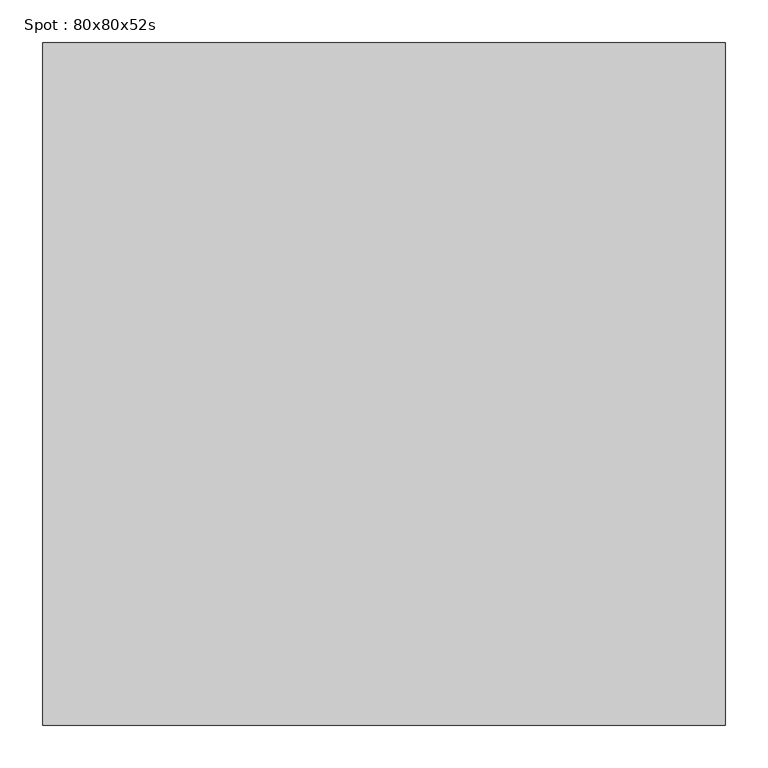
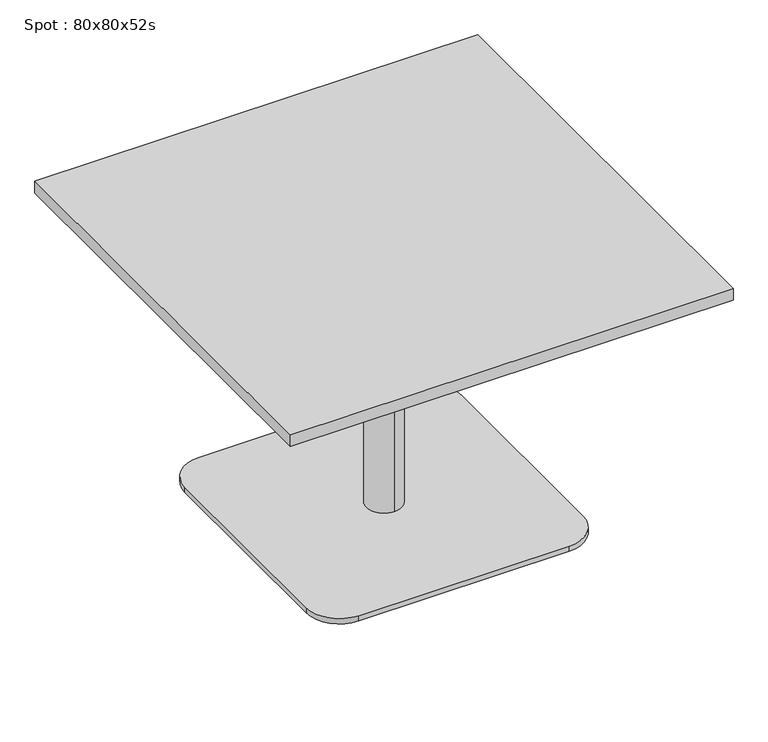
"""IFC4 building model written with IfcOpenShell, lengths in millimetres: furniture geometry, Spot : 80x80x52s."""

from ifc_helpers import new_model, si_unit, point, frame, frame_2d, origin, origin_with_axes, place, context, project, spatial, polyline, circle_curve, trimmed, segment, composite_curve, outline, extrude, source, transform, mapped, element, save
from ifc_brep_helpers import plane_surface, cylinder_surface, revolved_surface, advanced_brep


def spot_80x80x52s_1c6ba555(model_context):
    return source(origin(), model_context, "Body", "SolidModel", [
        extrude(outline(polyline([(400.0, 400.0), (400.0, -400.0), (-400.0, -400.0), (-400.0, 400.0), (400.0, 400.0)])), frame((0.0, 0.0, 498.0), z_axis=(0.0, 0.0, 1.0), x_axis=(1.0, 0.0, 0.0)), (0.0, 0.0, 1.0), 22.0),
        extrude(outline(composite_curve([segment(trimmed(circle_curve(frame_2d((190.0, 190.0)), 60.0), [point((190.0, 250.0))], [point((250.0, 190.0))], False, "CARTESIAN"), True, "CONTINUOUS"), segment(polyline([(250.0, 190.0), (250.0, -190.0)]), True, "CONTINUOUS"), segment(trimmed(circle_curve(frame_2d((190.0, -190.0)), 60.0), [point((250.0, -190.0))], [point((190.0, -250.0))], False, "CARTESIAN"), True, "CONTINUOUS"), segment(polyline([(190.0, -250.0), (-190.0, -250.0)]), True, "CONTINUOUS"), segment(trimmed(circle_curve(frame_2d((-190.0, -190.0)), 60.0), [point((-190.0, -250.0))], [point((-250.0, -190.0))], False, "CARTESIAN"), True, "CONTINUOUS"), segment(polyline([(-250.0, -190.0), (-250.0, 190.0)]), True, "CONTINUOUS"), segment(trimmed(circle_curve(frame_2d((-190.0, 190.0)), 60.0), [point((-250.0, 190.0))], [point((-190.0, 250.0))], False, "CARTESIAN"), True, "CONTINUOUS"), segment(polyline([(-190.0, 250.0), (190.0, 250.0)]), True, "CONTINUOUS")], self_intersect=False)), origin_with_axes(), (0.0, 0.0, 1.0), 10.0),
        advanced_brep(
        [(0.0, 32.0, 10.0), (0.0, -32.0, 10.0), (0.0, -32.0, 467.406916), (0.0, 32.0, 467.406916), (0.0, 0.0, 10.0), (0.0, 150.0, 498.0), (0.0, -150.0, 498.0), (0.0, 0.0, 498.0), (0.0, 150.0, 486.7213673), (0.0, -150.0, 486.7213673)],
        [
            (0, 1, circle_curve(frame((0.0, 0.0, 10.0), z_axis=(0.0, 0.0, 1.0), x_axis=(0.0, -1.0, 0.0)), 32.0)),
            (1, 2),
            (2, 3, circle_curve(frame((0.0, 0.0, 467.406916), z_axis=(0.0, 0.0, -1.0), x_axis=(0.0, -1.0, 0.0)), 32.0)),
            (3, 0),
            (1, 0, circle_curve(frame((0.0, 0.0, 10.0), z_axis=(0.0, 0.0, 1.0), x_axis=(0.0, -1.0, 0.0)), 32.0)),
            (3, 2, circle_curve(frame((0.0, 0.0, 467.406916), z_axis=(0.0, 0.0, -1.0), x_axis=(0.0, -1.0, 0.0)), 32.0)),
            (4, 1),
            (0, 4),
            (5, 6, circle_curve(frame((0.0, 0.0, 498.0), z_axis=(0.0, 0.0, 1.0), x_axis=(0.0, -1.0, 0.0)), 150.0)),
            (6, 7),
            (7, 5),
            (6, 5, circle_curve(frame((0.0, 0.0, 498.0), z_axis=(0.0, 0.0, 1.0), x_axis=(0.0, -1.0, 0.0)), 150.0)),
            (8, 9, circle_curve(frame((0.0, 0.0, 486.7213673), z_axis=(0.0, 0.0, 1.0), x_axis=(0.0, -1.0, 0.0)), 150.0)),
            (9, 6),
            (5, 8),
            (9, 8, circle_curve(frame((0.0, 0.0, 486.7213673), z_axis=(0.0, 0.0, 1.0), x_axis=(0.0, -1.0, 0.0)), 150.0)),
            (2, 9),
            (8, 3),
        ],
        [
            cylinder_surface(frame((0.0, 0.0, 860.0), z_axis=(0.0, 0.0, -1.0), x_axis=(0.0, -1.0, 0.0)), 32.0),
            plane_surface(frame((0.0, 0.0, 10.0), z_axis=(0.0, 0.0, -1.0), x_axis=(0.0, -1.0, 0.0))),
            plane_surface(frame((0.0, 0.0, 498.0), z_axis=(0.0, 0.0, 1.0), x_axis=(0.0, -1.0, 0.0))),
            cylinder_surface(frame((0.0, 0.0, 860.0), z_axis=(0.0, 0.0, -1.0), x_axis=(0.0, -1.0, 0.0)), 150.0),
            revolved_surface(polyline([(0.0, -150.0, 486.7213673), (0.0, -32.0, 467.406916)]), (0.0, 0.0, 860.0), (0.0, 0.0, -1.0)),
        ],
        [
            (0, [[1, 2, 3, 4]]),
            (0, [[5, -4, 6, -2]]),
            (1, [[7, -1, 8]]),
            (1, [[-8, -5, -7]]),
            (2, [[9, 10, 11]]),
            (2, [[12, -11, -10]]),
            (3, [[13, 14, -9, 15]]),
            (3, [[16, -15, -12, -14]]),
            (4, [[-3, 17, -13, 18]]),
            (4, [[-6, -18, -16, -17]]),
        ],
    ),
        extrude(outline(polyline([(0.0, 0.0), (-20.0, 0.0), (-20.0, 20.0), (0.0, 20.0), (0.0, 0.0)])), origin_with_axes(), (0.0, 0.0, 1.0), 10.0),
    ])


if __name__ == "__main__":
    model = new_model("IFC4")
    model_context = context("Model", 3, world=origin())
    ifc_project = project(units=[si_unit("LENGTHUNIT", "METRE", prefix="MILLI")], contexts=[model_context])
    site = spatial("IfcSite", under=ifc_project)
    building = spatial("IfcBuilding", under=site)
    placement = place(None, origin())
    spot_80x80x52s_shape = spot_80x80x52s_1c6ba555(model_context)
    element("IfcFurniture", 1, ObjectType="Spot : 80x80x52s", at=placement, inside=building, context=model_context, shape_type="MappedRepresentation", body=[
        mapped(spot_80x80x52s_shape, transform((0.0, 0.0, 0.0), x_axis=(1.0, 0.0, 0.0), y_axis=(0.0, 1.0, 0.0), z_axis=(0.0, 0.0, 1.0))),
    ])
    save(model, "model.ifc")
